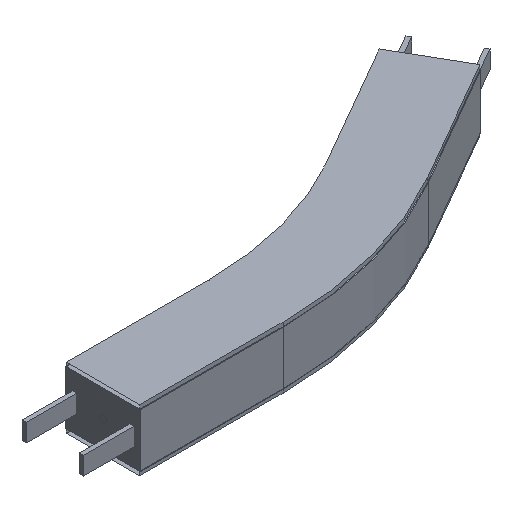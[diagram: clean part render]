
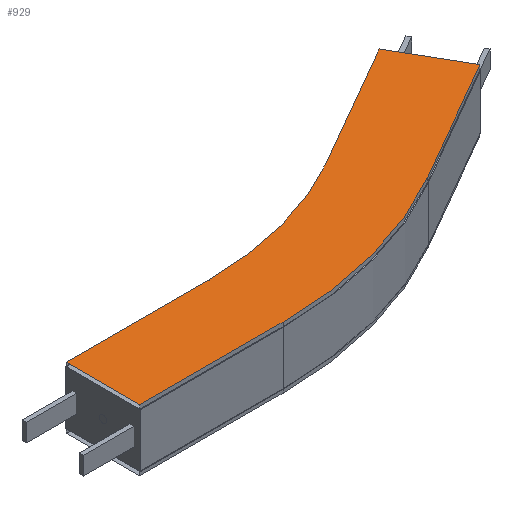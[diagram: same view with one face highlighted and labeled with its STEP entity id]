
A CAD part, isometric view. The second image highlights one B-rep face of the part: STEP entity #929.
In plain terms, the highlighted planar face has unit normal (0, 0, -1).
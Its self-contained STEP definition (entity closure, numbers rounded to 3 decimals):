
#61=CIRCLE('',#1011,448.5);
#62=CIRCLE('',#1013,551.5);
#119=FACE_OUTER_BOUND('',#171,.T.);
#171=EDGE_LOOP('',(#794,#795,#796,#797,#798,#799,#800,#801));
#253=LINE('',#1463,#363);
#255=LINE('',#1469,#365);
#262=LINE('',#1490,#372);
#267=LINE('',#1499,#377);
#268=LINE('',#1501,#378);
#269=LINE('',#1502,#379);
#363=VECTOR('',#1198,10.);
#365=VECTOR('',#1202,10.);
#372=VECTOR('',#1223,10.);
#377=VECTOR('',#1232,10.);
#378=VECTOR('',#1235,10.);
#379=VECTOR('',#1236,10.);
#453=VERTEX_POINT('',#1457);
#455=VERTEX_POINT('',#1461);
#456=VERTEX_POINT('',#1465);
#458=VERTEX_POINT('',#1468);
#461=VERTEX_POINT('',#1475);
#462=VERTEX_POINT('',#1480);
#464=VERTEX_POINT('',#1486);
#467=VERTEX_POINT('',#1497);
#565=EDGE_CURVE('',#453,#455,#253,.T.);
#567=EDGE_CURVE('',#456,#458,#255,.T.);
#572=EDGE_CURVE('',#461,#453,#61,.T.);
#574=EDGE_CURVE('',#462,#456,#62,.T.);
#578=EDGE_CURVE('',#464,#461,#262,.T.);
#583=EDGE_CURVE('',#467,#462,#267,.T.);
#584=EDGE_CURVE('',#467,#464,#268,.T.);
#585=EDGE_CURVE('',#455,#458,#269,.T.);
#794=ORIENTED_EDGE('',*,*,#584,.T.);
#795=ORIENTED_EDGE('',*,*,#578,.T.);
#796=ORIENTED_EDGE('',*,*,#572,.T.);
#797=ORIENTED_EDGE('',*,*,#565,.T.);
#798=ORIENTED_EDGE('',*,*,#585,.T.);
#799=ORIENTED_EDGE('',*,*,#567,.F.);
#800=ORIENTED_EDGE('',*,*,#574,.F.);
#801=ORIENTED_EDGE('',*,*,#583,.F.);
#879=PLANE('',#1018);
#929=ADVANCED_FACE('',(#119),#879,.F.);
#1011=AXIS2_PLACEMENT_3D('',#1478,#1210,#1211);
#1013=AXIS2_PLACEMENT_3D('',#1483,#1215,#1216);
#1018=AXIS2_PLACEMENT_3D('',#1500,#1233,#1234);
#1198=DIRECTION('',(0.866,0.5,0.));
#1202=DIRECTION('',(0.866,0.5,0.));
#1210=DIRECTION('center_axis',(0.,0.,
1.));
#1211=DIRECTION('ref_axis',(0.,-1.,0.));
#1215=DIRECTION('center_axis',(0.,0.,
1.));
#1216=DIRECTION('ref_axis',(0.,-1.,0.));
#1223=DIRECTION('',(1.,0.,0.));
#1232=DIRECTION('',(1.,0.,0.));
#1233=DIRECTION('center_axis',(0.,0.,1.));
#1234=DIRECTION('ref_axis',(0.,-1.,0.));
#1235=DIRECTION('',(0.,1.,0.));
#1236=DIRECTION('',(0.5,-0.866,0.));
#1457=CARTESIAN_POINT('',(424.25,111.588,43.));
#1461=CARTESIAN_POINT('',(597.455,211.588,43.));
#1463=CARTESIAN_POINT('',(424.25,111.588,43.));
#1465=CARTESIAN_POINT('',(475.75,22.387,43.));
#1468=CARTESIAN_POINT('',(648.955,122.387,43.));
#1469=CARTESIAN_POINT('',(475.75,22.387,43.));
#1475=CARTESIAN_POINT('',(200.,51.5,43.));
#1478=CARTESIAN_POINT('Origin',(200.,500.,43.));
#1480=CARTESIAN_POINT('',(200.,-51.5,43.));
#1483=CARTESIAN_POINT('Origin',(200.,500.,43.));
#1486=CARTESIAN_POINT('',(0.,51.5,43.));
#1490=CARTESIAN_POINT('',(0.,51.5,43.));
#1497=CARTESIAN_POINT('',(0.,-51.5,43.));
#1499=CARTESIAN_POINT('',(0.,-51.5,43.));
#1500=CARTESIAN_POINT('Origin',(0.,51.5,43.));
#1501=CARTESIAN_POINT('',(0.,-51.5,43.));
#1502=CARTESIAN_POINT('',(648.955,122.387,43.));
